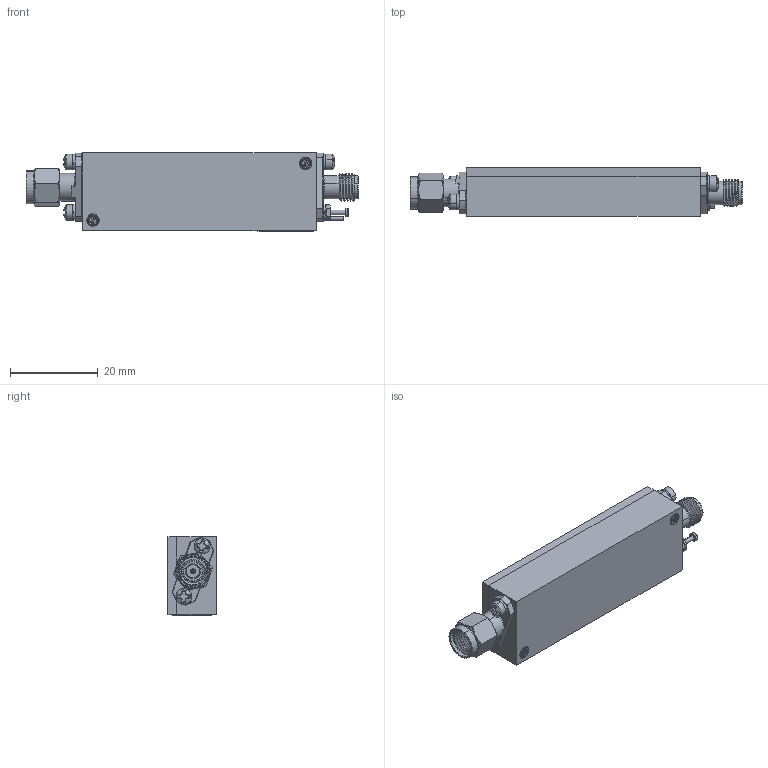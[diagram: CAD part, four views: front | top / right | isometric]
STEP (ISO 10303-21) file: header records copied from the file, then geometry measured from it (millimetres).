
FILE_DESCRIPTION (( 'STEP AP214' ), '1' );
FILE_NAME ('PLNA-2G8G-35-2R2-15DBM-12V-SFF.STEP', '2025-06-09T17:01:14', ( '' ), ( '' ), 'SwSTEP 2.0', 'SolidWorks 2024', '' );
FILE_SCHEMA (( 'AUTOMOTIVE_DESIGN' ));
Length unit declared in the file: millimetre
Products named in the file (1): PLNA-2G8G-35-2R2-15DBM-12V-SFF
Bounding box: 75.72 x 11.25 x 17.91 mm (x, y, z)
Volume: 9775.7 mm3; surface area: 12128 mm2
Topology: 56 solids, 56 shells, 2411 faces, 7049 edges, 4844 vertices
Faces by surface type: plane 1090, cylinder 582, cone 424, torus 129, bspline 107, sphere 79
Entity records: 109446 total; most frequent: CARTESIAN_POINT 30107, ORIENTED_EDGE 13698, DIRECTION 12140, EDGE_CURVE 6849, VERTEX_POINT 4844, AXIS2_PLACEMENT_3D 4398, LINE 3344, VECTOR 3344
